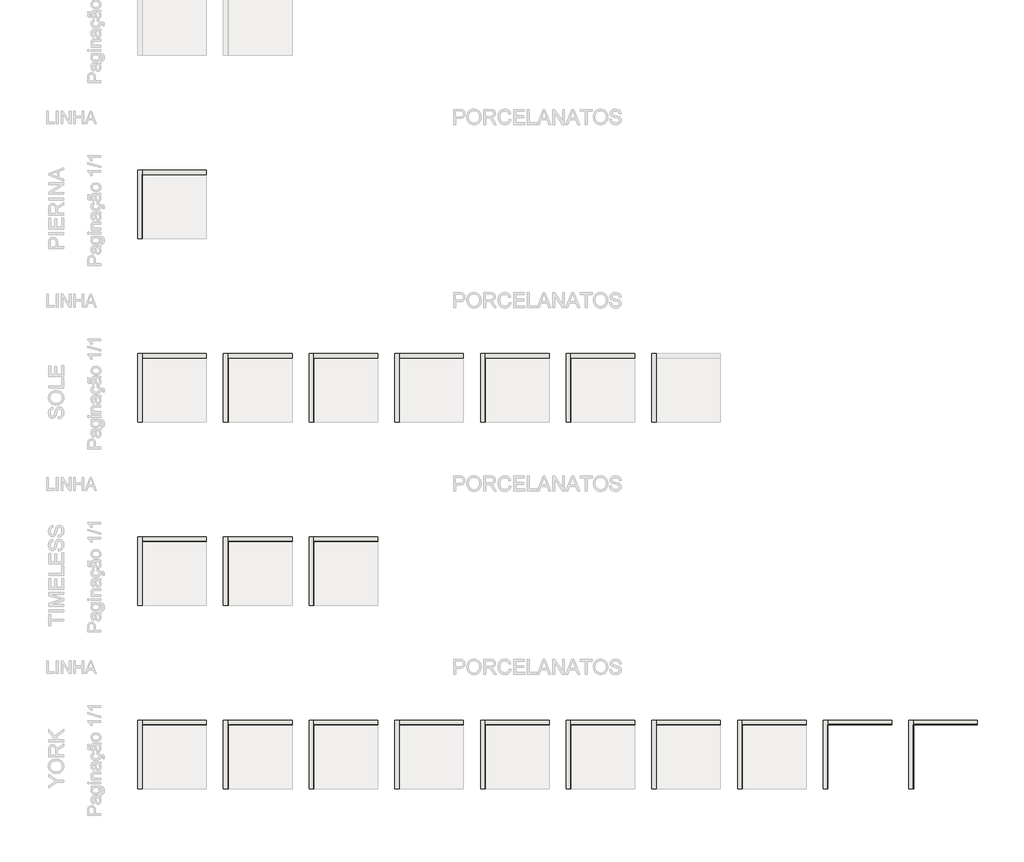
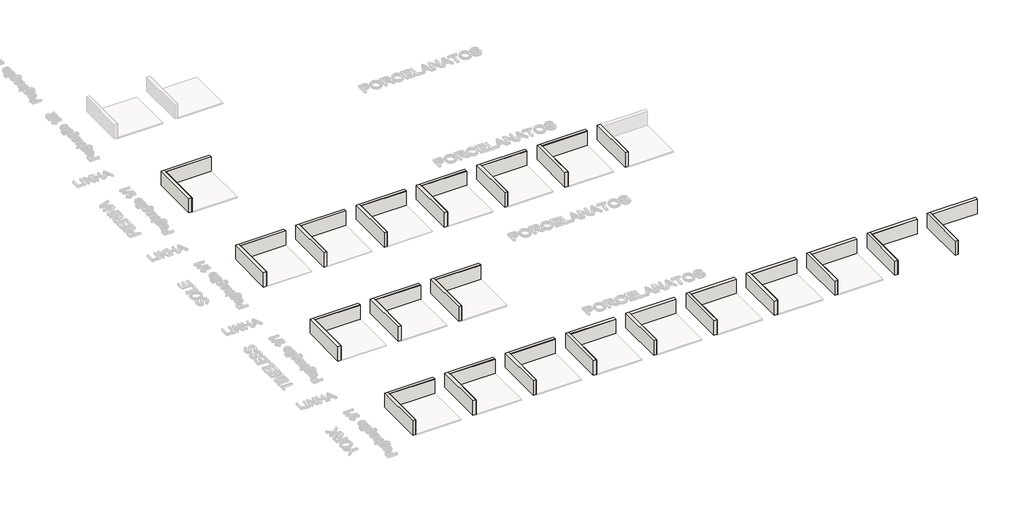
# One storey, part 1 of 22: 82 walls.
"""IFC4 building model written with IfcOpenShell, lengths in millimetres."""

from ifc_helpers import new_model, si_unit, origin, origin_with_axes, place, context, project, spatial, polyline, outline, extrude, faceted_brep, element, save

model = new_model("IFC4")

# Units and contexts
model_context = context("Model", 3, world=origin())
ifc_project = project(units=[si_unit("LENGTHUNIT", "METRE", prefix="MILLI")], contexts=[model_context])

# Site, building, storey
site = spatial("IfcSite", under=ifc_project)
building = spatial("IfcBuilding", under=site)
storey = spatial("IfcBuildingStorey", under=building, Name="Showroom (N.A.)", Elevation=0.0)

# Walls
placement = place(None, origin())
element("IfcWall", 1, ObjectType="Portinari_York_Decor_SGR_MATTE_29,1x117_Pag-1/1", at=placement, inside=storey, context=model_context, shape_type="Brep", body=[
    faceted_brep([(-75054.0516826, -223255.9980743, 0.0), (-78054.0516826, -223255.9980743, 0.0), (-78054.0516826, -223255.9980743, 1000.0), (-75054.0516826, -223255.9980743, 1000.0), (-75054.0516826, -223270.9980743, 0.0), (-75054.0516826, -223270.9980743, 1000.0), (-78039.0516826, -223270.9980743, 1000.0), (-78054.0516826, -223270.9980743, 1000.0), (-78054.0516826, -223270.9980743, 0.0), (-78039.0516826, -223270.9980743, 0.0)], [[[0, 1, 2, 3]], [[4, 5, 6, 7, 8, 9]], [[1, 0, 4, 9, 8]], [[3, 2, 7, 6, 5]], [[0, 3, 5, 4]], [[2, 1, 8, 7]]]),
])
element("IfcWall", 2, ObjectType="Portinari_York_Decor_SGR_MATTE_29,1x117_Pag-1/1", at=placement, inside=storey, context=model_context, shape_type="SweptSolid", body=[
    extrude(outline(polyline([(-78054.0516826, -226255.9980743), (-78054.0516826, -223270.9980743), (-78039.0516826, -223270.9980743), (-78039.0516826, -226255.9980743), (-78054.0516826, -226255.9980743)])), origin_with_axes(), (0.0, 0.0, 1.0), 1000.0),
])
element("IfcWall", 3, ObjectType="Portinari_York_Decor_WH_MATTE_29,1x117_Pag-1/1", at=placement, inside=storey, context=model_context, shape_type="Brep", body=[
    faceted_brep([(-71054.0516826, -223255.9980743, 0.0), (-74054.0516826, -223255.9980743, 0.0), (-74054.0516826, -223255.9980743, 1000.0), (-71054.0516826, -223255.9980743, 1000.0), (-71054.0516826, -223270.9980743, 0.0), (-71054.0516826, -223270.9980743, 1000.0), (-74039.0516826, -223270.9980743, 1000.0), (-74054.0516826, -223270.9980743, 1000.0), (-74054.0516826, -223270.9980743, 0.0), (-74039.0516826, -223270.9980743, 0.0)], [[[0, 1, 2, 3]], [[4, 5, 6, 7, 8, 9]], [[1, 0, 4, 9, 8]], [[3, 2, 7, 6, 5]], [[0, 3, 5, 4]], [[2, 1, 8, 7]]]),
])
element("IfcWall", 4, ObjectType="Portinari_York_Decor_WH_MATTE_29,1x117_Pag-1/1", at=placement, inside=storey, context=model_context, shape_type="SweptSolid", body=[
    extrude(outline(polyline([(-74054.0516826, -226255.9980743), (-74054.0516826, -223270.9980743), (-74039.0516826, -223270.9980743), (-74039.0516826, -226255.9980743), (-74054.0516826, -226255.9980743)])), origin_with_axes(), (0.0, 0.0, 1.0), 1000.0),
])
element("IfcWall", 5, ObjectType="Portinari_Pierina_BK_NAT_80x160_Pag-1/1", at=placement, inside=storey, context=model_context, shape_type="Brep", body=[
    faceted_brep([(-107054.0516826, -197565.8854377, 0.0), (-110054.0516826, -197565.8854377, 0.0), (-110054.0516826, -197565.8854377, 1000.0), (-107054.0516826, -197565.8854377, 1000.0), (-107054.0516826, -197580.8854377, 0.0), (-107054.0516826, -197580.8854377, 1000.0), (-110039.0516826, -197580.8854377, 1000.0), (-110054.0516826, -197580.8854377, 1000.0), (-110054.0516826, -197580.8854377, 0.0), (-110039.0516826, -197580.8854377, 0.0)], [[[0, 1, 2, 3]], [[4, 5, 6, 7, 8, 9]], [[1, 0, 4, 9, 8]], [[3, 2, 7, 6, 5]], [[0, 3, 5, 4]], [[2, 1, 8, 7]]]),
])
element("IfcWall", 6, ObjectType="Portinari_Pierina_BK_NAT_80x160_Pag-1/1", at=placement, inside=storey, context=model_context, shape_type="SweptSolid", body=[
    extrude(outline(polyline([(-110054.0516826, -200565.8854377), (-110054.0516826, -197580.8854377), (-110039.0516826, -197580.8854377), (-110039.0516826, -200565.8854377), (-110054.0516826, -200565.8854377)])), origin_with_axes(), (0.0, 0.0, 1.0), 1000.0),
])
element("IfcWall", 7, ObjectType="Portinari_Sole_BW_NAT_100x100_Pag-1/1", at=placement, inside=storey, context=model_context, shape_type="Brep", body=[
    faceted_brep([(-107054.0516826, -206129.2563166, 0.0), (-110054.0516826, -206129.2563166, 0.0), (-110054.0516826, -206129.2563166, 1000.0), (-107054.0516826, -206129.2563166, 1000.0), (-107054.0516826, -206144.2563166, 0.0), (-107054.0516826, -206144.2563166, 1000.0), (-110039.0516826, -206144.2563166, 1000.0), (-110054.0516826, -206144.2563166, 1000.0), (-110054.0516826, -206144.2563166, 0.0), (-110039.0516826, -206144.2563166, 0.0)], [[[0, 1, 2, 3]], [[4, 5, 6, 7, 8, 9]], [[1, 0, 4, 9, 8]], [[3, 2, 7, 6, 5]], [[0, 3, 5, 4]], [[2, 1, 8, 7]]]),
])
element("IfcWall", 8, ObjectType="Portinari_Sole_BW_NAT_100x100_Pag-1/1", at=placement, inside=storey, context=model_context, shape_type="SweptSolid", body=[
    extrude(outline(polyline([(-110054.0516826, -209129.2563166), (-110054.0516826, -206144.2563166), (-110039.0516826, -206144.2563166), (-110039.0516826, -209129.2563166), (-110054.0516826, -209129.2563166)])), origin_with_axes(), (0.0, 0.0, 1.0), 1000.0),
])
element("IfcWall", 9, ObjectType="Portinari_Sole_BW_HARD_100x100_Pag-1/1", at=placement, inside=storey, context=model_context, shape_type="Brep", body=[
    faceted_brep([(-103054.0516826, -206129.2563166, 0.0), (-106054.0516826, -206129.2563166, 0.0), (-106054.0516826, -206129.2563166, 1000.0), (-103054.0516826, -206129.2563166, 1000.0), (-103054.0516826, -206144.2563166, 0.0), (-103054.0516826, -206144.2563166, 1000.0), (-106039.0516826, -206144.2563166, 1000.0), (-106054.0516826, -206144.2563166, 1000.0), (-106054.0516826, -206144.2563166, 0.0), (-106039.0516826, -206144.2563166, 0.0)], [[[0, 1, 2, 3]], [[4, 5, 6, 7, 8, 9]], [[1, 0, 4, 9, 8]], [[3, 2, 7, 6, 5]], [[0, 3, 5, 4]], [[2, 1, 8, 7]]]),
])
element("IfcWall", 10, ObjectType="Portinari_Sole_BW_HARD_100x100_Pag-1/1", at=placement, inside=storey, context=model_context, shape_type="SweptSolid", body=[
    extrude(outline(polyline([(-106054.0516826, -209129.2563166), (-106054.0516826, -206144.2563166), (-106039.0516826, -206144.2563166), (-106039.0516826, -209129.2563166), (-106054.0516826, -209129.2563166)])), origin_with_axes(), (0.0, 0.0, 1.0), 1000.0),
])
element("IfcWall", 11, ObjectType="Portinari_Sole_Decor_GN_NAT_4,82x40_Pag-1/1", at=placement, inside=storey, context=model_context, shape_type="Brep", body=[
    faceted_brep([(-99054.0516826, -206129.2563166, 0.0), (-102054.0516826, -206129.2563166, 0.0), (-102054.0516826, -206129.2563166, 1000.0), (-99054.0516826, -206129.2563166, 1000.0), (-99054.0516826, -206141.6563166, 0.0), (-99054.0516826, -206141.6563166, 1000.0), (-102041.6516826, -206141.6563166, 1000.0), (-102054.0516826, -206141.6563166, 1000.0), (-102054.0516826, -206141.6563166, 0.0), (-102041.6516826, -206141.6563166, 0.0)], [[[0, 1, 2, 3]], [[4, 5, 6, 7, 8, 9]], [[1, 0, 4, 9, 8]], [[3, 2, 7, 6, 5]], [[0, 3, 5, 4]], [[2, 1, 8, 7]]]),
])
element("IfcWall", 12, ObjectType="Portinari_Sole_Decor_GN_NAT_4,82x40_Pag-1/1", at=placement, inside=storey, context=model_context, shape_type="SweptSolid", body=[
    extrude(outline(polyline([(-102054.0516826, -209129.2563166), (-102054.0516826, -206141.6563166), (-102041.6516826, -206141.6563166), (-102041.6516826, -209129.2563166), (-102054.0516826, -209129.2563166)])), origin_with_axes(), (0.0, 0.0, 1.0), 1000.0),
])
element("IfcWall", 13, ObjectType="Portinari_Sole_Decor_YL_NAT_4,82x40_Pag-1/1", at=placement, inside=storey, context=model_context, shape_type="Brep", body=[
    faceted_brep([(-95054.0516826, -206129.2563166, 0.0), (-98054.0516826, -206129.2563166, 0.0), (-98054.0516826, -206129.2563166, 1000.0), (-95054.0516826, -206129.2563166, 1000.0), (-95054.0516826, -206141.6563166, 0.0), (-95054.0516826, -206141.6563166, 1000.0), (-98041.6516826, -206141.6563166, 1000.0), (-98054.0516826, -206141.6563166, 1000.0), (-98054.0516826, -206141.6563166, 0.0), (-98041.6516826, -206141.6563166, 0.0)], [[[0, 1, 2, 3]], [[4, 5, 6, 7, 8, 9]], [[1, 0, 4, 9, 8]], [[3, 2, 7, 6, 5]], [[0, 3, 5, 4]], [[2, 1, 8, 7]]]),
])
element("IfcWall", 14, ObjectType="Portinari_Sole_Decor_YL_NAT_4,82x40_Pag-1/1", at=placement, inside=storey, context=model_context, shape_type="SweptSolid", body=[
    extrude(outline(polyline([(-98054.0516826, -209129.2563166), (-98054.0516826, -206141.6563166), (-98041.6516826, -206141.6563166), (-98041.6516826, -209129.2563166), (-98054.0516826, -209129.2563166)])), origin_with_axes(), (0.0, 0.0, 1.0), 1000.0),
])
element("IfcWall", 15, ObjectType="Portinari_Sole_Decor_SBE_NAT_4,82x40_Pag-1/1", at=placement, inside=storey, context=model_context, shape_type="Brep", body=[
    faceted_brep([(-91054.0516826, -206129.2563166, 0.0), (-94054.0516826, -206129.2563166, 0.0), (-94054.0516826, -206129.2563166, 1000.0), (-91054.0516826, -206129.2563166, 1000.0), (-91054.0516826, -206141.6563166, 0.0), (-91054.0516826, -206141.6563166, 1000.0), (-94041.6516826, -206141.6563166, 1000.0), (-94054.0516826, -206141.6563166, 1000.0), (-94054.0516826, -206141.6563166, 0.0), (-94041.6516826, -206141.6563166, 0.0)], [[[0, 1, 2, 3]], [[4, 5, 6, 7, 8, 9]], [[1, 0, 4, 9, 8]], [[3, 2, 7, 6, 5]], [[0, 3, 5, 4]], [[2, 1, 8, 7]]]),
])
element("IfcWall", 16, ObjectType="Portinari_Sole_Decor_SBE_NAT_4,82x40_Pag-1/1", at=placement, inside=storey, context=model_context, shape_type="SweptSolid", body=[
    extrude(outline(polyline([(-94054.0516826, -209129.2563166), (-94054.0516826, -206141.6563166), (-94041.6516826, -206141.6563166), (-94041.6516826, -209129.2563166), (-94054.0516826, -209129.2563166)])), origin_with_axes(), (0.0, 0.0, 1.0), 1000.0),
])
element("IfcWall", 17, ObjectType="Portinari_Sole_Decor_NO_NAT_4,82x40_Pag-1/1", at=placement, inside=storey, context=model_context, shape_type="Brep", body=[
    faceted_brep([(-87054.0516826, -206129.2563166, 0.0), (-90054.0516826, -206129.2563166, 0.0), (-90054.0516826, -206129.2563166, 1000.0), (-87054.0516826, -206129.2563166, 1000.0), (-87054.0516826, -206141.6563166, 0.0), (-87054.0516826, -206141.6563166, 1000.0), (-90041.6516826, -206141.6563166, 1000.0), (-90054.0516826, -206141.6563166, 1000.0), (-90054.0516826, -206141.6563166, 0.0), (-90041.6516826, -206141.6563166, 0.0)], [[[0, 1, 2, 3]], [[4, 5, 6, 7, 8, 9]], [[1, 0, 4, 9, 8]], [[3, 2, 7, 6, 5]], [[0, 3, 5, 4]], [[2, 1, 8, 7]]]),
])
element("IfcWall", 18, ObjectType="Portinari_Sole_Decor_NO_NAT_4,82x40_Pag-1/1", at=placement, inside=storey, context=model_context, shape_type="SweptSolid", body=[
    extrude(outline(polyline([(-90054.0516826, -209129.2563166), (-90054.0516826, -206141.6563166), (-90041.6516826, -206141.6563166), (-90041.6516826, -209129.2563166), (-90054.0516826, -209129.2563166)])), origin_with_axes(), (0.0, 0.0, 1.0), 1000.0),
])
element("IfcWall", 19, ObjectType="Portinari_Sole_Decor_BW_NAT_4,82x40_Pag-1/1", at=placement, inside=storey, context=model_context, shape_type="SweptSolid", body=[
    extrude(outline(polyline([(-86054.0516826, -209129.2563166), (-86054.0516826, -206141.6563166), (-86041.6516826, -206141.6563166), (-86041.6516826, -209129.2563166), (-86054.0516826, -209129.2563166)])), origin_with_axes(), (0.0, 0.0, 1.0), 1000.0),
])
element("IfcWall", 20, ObjectType="Portinari_Timeless_WH_NAT_120x120_Pag-1/1", at=placement, inside=storey, context=model_context, shape_type="Brep", body=[
    faceted_brep([(-107054.0516826, -214692.6271954, 0.0), (-110054.0516826, -214692.6271954, 0.0), (-110054.0516826, -214692.6271954, 1000.0), (-107054.0516826, -214692.6271954, 1000.0), (-107054.0516826, -214706.8271954, 0.0), (-107054.0516826, -214706.8271954, 1000.0), (-110039.8516826, -214706.8271954, 1000.0), (-110054.0516826, -214706.8271954, 1000.0), (-110054.0516826, -214706.8271954, 0.0), (-110039.8516826, -214706.8271954, 0.0)], [[[0, 1, 2, 3]], [[4, 5, 6, 7, 8, 9]], [[1, 0, 4, 9, 8]], [[3, 2, 7, 6, 5]], [[0, 3, 5, 4]], [[2, 1, 8, 7]]]),
])
element("IfcWall", 21, ObjectType="Portinari_Timeless_WH_NAT_120x120_Pag-1/1", at=placement, inside=storey, context=model_context, shape_type="SweptSolid", body=[
    extrude(outline(polyline([(-110054.0516826, -217692.6271954), (-110054.0516826, -214706.8271954), (-110039.8516826, -214706.8271954), (-110039.8516826, -217692.6271954), (-110054.0516826, -217692.6271954)])), origin_with_axes(), (0.0, 0.0, 1.0), 1000.0),
])
element("IfcWall", 22, ObjectType="Portinari_Timeless_WH_POL_120x120_Pag-1/1", at=placement, inside=storey, context=model_context, shape_type="Brep", body=[
    faceted_brep([(-103054.0516826, -214692.6271954, 0.0), (-106054.0516826, -214692.6271954, 0.0), (-106054.0516826, -214692.6271954, 1000.0), (-103054.0516826, -214692.6271954, 1000.0), (-103054.0516826, -214706.8271954, 0.0), (-103054.0516826, -214706.8271954, 1000.0), (-106039.8516826, -214706.8271954, 1000.0), (-106054.0516826, -214706.8271954, 1000.0), (-106054.0516826, -214706.8271954, 0.0), (-106039.8516826, -214706.8271954, 0.0)], [[[0, 1, 2, 3]], [[4, 5, 6, 7, 8, 9]], [[1, 0, 4, 9, 8]], [[3, 2, 7, 6, 5]], [[0, 3, 5, 4]], [[2, 1, 8, 7]]]),
])
element("IfcWall", 23, ObjectType="Portinari_Timeless_WH_POL_120x120_Pag-1/1", at=placement, inside=storey, context=model_context, shape_type="SweptSolid", body=[
    extrude(outline(polyline([(-106054.0516826, -217692.6271954), (-106054.0516826, -214706.8271954), (-106039.8516826, -214706.8271954), (-106039.8516826, -217692.6271954), (-106054.0516826, -217692.6271954)])), origin_with_axes(), (0.0, 0.0, 1.0), 1000.0),
])
element("IfcWall", 24, ObjectType="Portinari_Timeless_WH_POL_120x270_Pag-1/1", at=placement, inside=storey, context=model_context, shape_type="Brep", body=[
    faceted_brep([(-99054.0516826, -214692.6271954, 0.0), (-102054.0516826, -214692.6271954, 0.0), (-102054.0516826, -214692.6271954, 1000.0), (-99054.0516826, -214692.6271954, 1000.0), (-99054.0516826, -214706.6271954, 0.0), (-99054.0516826, -214706.6271954, 1000.0), (-102040.0516826, -214706.6271954, 1000.0), (-102054.0516826, -214706.6271954, 1000.0), (-102054.0516826, -214706.6271954, 0.0), (-102040.0516826, -214706.6271954, 0.0)], [[[0, 1, 2, 3]], [[4, 5, 6, 7, 8, 9]], [[1, 0, 4, 9, 8]], [[3, 2, 7, 6, 5]], [[0, 3, 5, 4]], [[2, 1, 8, 7]]]),
])
element("IfcWall", 25, ObjectType="Portinari_Timeless_WH_POL_120x270_Pag-1/1", at=placement, inside=storey, context=model_context, shape_type="SweptSolid", body=[
    extrude(outline(polyline([(-102054.0516826, -217692.6271954), (-102054.0516826, -214706.6271954), (-102040.0516826, -214706.6271954), (-102040.0516826, -217692.6271954), (-102054.0516826, -217692.6271954)])), origin_with_axes(), (0.0, 0.0, 1.0), 1000.0),
])
element("IfcWall", 26, ObjectType="Portinari_York_BE_NAT_120x120_Pag-1/1", at=placement, inside=storey, context=model_context, shape_type="Brep", body=[
    faceted_brep([(-107054.0516826, -223255.9980743, 0.0), (-110054.0516826, -223255.9980743, 0.0), (-110054.0516826, -223255.9980743, 1000.0), (-107054.0516826, -223255.9980743, 1000.0), (-107054.0516826, -223270.1980743, 0.0), (-107054.0516826, -223270.1980743, 1000.0), (-110039.8516826, -223270.1980743, 1000.0), (-110054.0516826, -223270.1980743, 1000.0), (-110054.0516826, -223270.1980743, 0.0), (-110039.8516826, -223270.1980743, 0.0)], [[[0, 1, 2, 3]], [[4, 5, 6, 7, 8, 9]], [[1, 0, 4, 9, 8]], [[3, 2, 7, 6, 5]], [[0, 3, 5, 4]], [[2, 1, 8, 7]]]),
])
element("IfcWall", 27, ObjectType="Portinari_York_BE_NAT_120x120_Pag-1/1", at=placement, inside=storey, context=model_context, shape_type="SweptSolid", body=[
    extrude(outline(polyline([(-110054.0516826, -226255.9980743), (-110054.0516826, -223270.1980743), (-110039.8516826, -223270.1980743), (-110039.8516826, -226255.9980743), (-110054.0516826, -226255.9980743)])), origin_with_axes(), (0.0, 0.0, 1.0), 1000.0),
])
element("IfcWall", 28, ObjectType="Portinari_York_BE_HARD_120x120_Pag-1/1", at=placement, inside=storey, context=model_context, shape_type="Brep", body=[
    faceted_brep([(-103054.0516826, -223255.9980743, 0.0), (-106054.0516826, -223255.9980743, 0.0), (-106054.0516826, -223255.9980743, 1000.0), (-103054.0516826, -223255.9980743, 1000.0), (-103054.0516826, -223270.1980743, 0.0), (-103054.0516826, -223270.1980743, 1000.0), (-106039.8516826, -223270.1980743, 1000.0), (-106054.0516826, -223270.1980743, 1000.0), (-106054.0516826, -223270.1980743, 0.0), (-106039.8516826, -223270.1980743, 0.0)], [[[0, 1, 2, 3]], [[4, 5, 6, 7, 8, 9]], [[1, 0, 4, 9, 8]], [[3, 2, 7, 6, 5]], [[0, 3, 5, 4]], [[2, 1, 8, 7]]]),
])
element("IfcWall", 29, ObjectType="Portinari_York_BE_HARD_120x120_Pag-1/1", at=placement, inside=storey, context=model_context, shape_type="SweptSolid", body=[
    extrude(outline(polyline([(-106054.0516826, -226255.9980743), (-106054.0516826, -223270.1980743), (-106039.8516826, -223270.1980743), (-106039.8516826, -226255.9980743), (-106054.0516826, -226255.9980743)])), origin_with_axes(), (0.0, 0.0, 1.0), 1000.0),
])
element("IfcWall", 30, ObjectType="Portinari_York_SGR_NAT_120x120_Pag-1/1", at=placement, inside=storey, context=model_context, shape_type="Brep", body=[
    faceted_brep([(-99054.0516826, -223255.9980743, 0.0), (-102054.0516826, -223255.9980743, 0.0), (-102054.0516826, -223255.9980743, 1000.0), (-99054.0516826, -223255.9980743, 1000.0), (-99054.0516826, -223270.1980743, 0.0), (-99054.0516826, -223270.1980743, 1000.0), (-102039.8516826, -223270.1980743, 1000.0), (-102054.0516826, -223270.1980743, 1000.0), (-102054.0516826, -223270.1980743, 0.0), (-102039.8516826, -223270.1980743, 0.0)], [[[0, 1, 2, 3]], [[4, 5, 6, 7, 8, 9]], [[1, 0, 4, 9, 8]], [[3, 2, 7, 6, 5]], [[0, 3, 5, 4]], [[2, 1, 8, 7]]]),
])
element("IfcWall", 31, ObjectType="Portinari_York_SGR_NAT_120x120_Pag-1/1", at=placement, inside=storey, context=model_context, shape_type="SweptSolid", body=[
    extrude(outline(polyline([(-102054.0516826, -226255.9980743), (-102054.0516826, -223270.1980743), (-102039.8516826, -223270.1980743), (-102039.8516826, -226255.9980743), (-102054.0516826, -226255.9980743)])), origin_with_axes(), (0.0, 0.0, 1.0), 1000.0),
])
element("IfcWall", 32, ObjectType="Portinari_York_SGR_HARD_120x120_Pag-1/1", at=placement, inside=storey, context=model_context, shape_type="Brep", body=[
    faceted_brep([(-95054.0516826, -223255.9980743, 0.0), (-98054.0516826, -223255.9980743, 0.0), (-98054.0516826, -223255.9980743, 1000.0), (-95054.0516826, -223255.9980743, 1000.0), (-95054.0516826, -223270.1980743, 0.0), (-95054.0516826, -223270.1980743, 1000.0), (-98039.8516826, -223270.1980743, 1000.0), (-98054.0516826, -223270.1980743, 1000.0), (-98054.0516826, -223270.1980743, 0.0), (-98039.8516826, -223270.1980743, 0.0)], [[[0, 1, 2, 3]], [[4, 5, 6, 7, 8, 9]], [[1, 0, 4, 9, 8]], [[3, 2, 7, 6, 5]], [[0, 3, 5, 4]], [[2, 1, 8, 7]]]),
])
element("IfcWall", 33, ObjectType="Portinari_York_SGR_HARD_120x120_Pag-1/1", at=placement, inside=storey, context=model_context, shape_type="SweptSolid", body=[
    extrude(outline(polyline([(-98054.0516826, -226255.9980743), (-98054.0516826, -223270.1980743), (-98039.8516826, -223270.1980743), (-98039.8516826, -226255.9980743), (-98054.0516826, -226255.9980743)])), origin_with_axes(), (0.0, 0.0, 1.0), 1000.0),
])
element("IfcWall", 34, ObjectType="Portinari_York_WH_NAT_120x120_Pag-1/1", at=placement, inside=storey, context=model_context, shape_type="Brep", body=[
    faceted_brep([(-91054.0516826, -223255.9980743, 0.0), (-94054.0516826, -223255.9980743, 0.0), (-94054.0516826, -223255.9980743, 1000.0), (-91054.0516826, -223255.9980743, 1000.0), (-91054.0516826, -223270.1980743, 0.0), (-91054.0516826, -223270.1980743, 1000.0), (-94039.8516826, -223270.1980743, 1000.0), (-94054.0516826, -223270.1980743, 1000.0), (-94054.0516826, -223270.1980743, 0.0), (-94039.8516826, -223270.1980743, 0.0)], [[[0, 1, 2, 3]], [[4, 5, 6, 7, 8, 9]], [[1, 0, 4, 9, 8]], [[3, 2, 7, 6, 5]], [[0, 3, 5, 4]], [[2, 1, 8, 7]]]),
])
element("IfcWall", 35, ObjectType="Portinari_York_WH_NAT_120x120_Pag-1/1", at=placement, inside=storey, context=model_context, shape_type="SweptSolid", body=[
    extrude(outline(polyline([(-94054.0516826, -226255.9980743), (-94054.0516826, -223270.1980743), (-94039.8516826, -223270.1980743), (-94039.8516826, -226255.9980743), (-94054.0516826, -226255.9980743)])), origin_with_axes(), (0.0, 0.0, 1.0), 1000.0),
])
element("IfcWall", 36, ObjectType="Portinari_York_BE_POL_120x120_Pag-1/1", at=placement, inside=storey, context=model_context, shape_type="Brep", body=[
    faceted_brep([(-87054.0516826, -223255.9980743, 0.0), (-90054.0516826, -223255.9980743, 0.0), (-90054.0516826, -223255.9980743, 1000.0), (-87054.0516826, -223255.9980743, 1000.0), (-87054.0516826, -223270.1980743, 0.0), (-87054.0516826, -223270.1980743, 1000.0), (-90039.8516826, -223270.1980743, 1000.0), (-90054.0516826, -223270.1980743, 1000.0), (-90054.0516826, -223270.1980743, 0.0), (-90039.8516826, -223270.1980743, 0.0)], [[[0, 1, 2, 3]], [[4, 5, 6, 7, 8, 9]], [[1, 0, 4, 9, 8]], [[3, 2, 7, 6, 5]], [[0, 3, 5, 4]], [[2, 1, 8, 7]]]),
])
element("IfcWall", 37, ObjectType="Portinari_York_BE_POL_120x120_Pag-1/1", at=placement, inside=storey, context=model_context, shape_type="SweptSolid", body=[
    extrude(outline(polyline([(-90054.0516826, -226255.9980743), (-90054.0516826, -223270.1980743), (-90039.8516826, -223270.1980743), (-90039.8516826, -226255.9980743), (-90054.0516826, -226255.9980743)])), origin_with_axes(), (0.0, 0.0, 1.0), 1000.0),
])
element("IfcWall", 38, ObjectType="Portinari_York_SGR_POL_120x120_Pag-1/1", at=placement, inside=storey, context=model_context, shape_type="Brep", body=[
    faceted_brep([(-83054.0516826, -223255.9980743, 0.0), (-86054.0516826, -223255.9980743, 0.0), (-86054.0516826, -223255.9980743, 1000.0), (-83054.0516826, -223255.9980743, 1000.0), (-83054.0516826, -223270.1980743, 0.0), (-83054.0516826, -223270.1980743, 1000.0), (-86039.8516826, -223270.1980743, 1000.0), (-86054.0516826, -223270.1980743, 1000.0), (-86054.0516826, -223270.1980743, 0.0), (-86039.8516826, -223270.1980743, 0.0)], [[[0, 1, 2, 3]], [[4, 5, 6, 7, 8, 9]], [[1, 0, 4, 9, 8]], [[3, 2, 7, 6, 5]], [[0, 3, 5, 4]], [[2, 1, 8, 7]]]),
])
element("IfcWall", 39, ObjectType="Portinari_York_SGR_POL_120x120_Pag-1/1", at=placement, inside=storey, context=model_context, shape_type="SweptSolid", body=[
    extrude(outline(polyline([(-86054.0516826, -226255.9980743), (-86054.0516826, -223270.1980743), (-86039.8516826, -223270.1980743), (-86039.8516826, -226255.9980743), (-86054.0516826, -226255.9980743)])), origin_with_axes(), (0.0, 0.0, 1.0), 1000.0),
])
element("IfcWall", 40, ObjectType="Portinari_York_WH_POL_120x120_Pag-1/1", at=placement, inside=storey, context=model_context, shape_type="Brep", body=[
    faceted_brep([(-79054.0516826, -223255.9980743, 0.0), (-82054.0516826, -223255.9980743, 0.0), (-82054.0516826, -223255.9980743, 1000.0), (-79054.0516826, -223255.9980743, 1000.0), (-79054.0516826, -223270.1980743, 0.0), (-79054.0516826, -223270.1980743, 1000.0), (-82039.8516826, -223270.1980743, 1000.0), (-82054.0516826, -223270.1980743, 1000.0), (-82054.0516826, -223270.1980743, 0.0), (-82039.8516826, -223270.1980743, 0.0)], [[[0, 1, 2, 3]], [[4, 5, 6, 7, 8, 9]], [[1, 0, 4, 9, 8]], [[3, 2, 7, 6, 5]], [[0, 3, 5, 4]], [[2, 1, 8, 7]]]),
])
element("IfcWall", 41, ObjectType="Portinari_York_WH_POL_120x120_Pag-1/1", at=placement, inside=storey, context=model_context, shape_type="SweptSolid", body=[
    extrude(outline(polyline([(-82054.0516826, -226255.9980743), (-82054.0516826, -223270.1980743), (-82039.8516826, -223270.1980743), (-82039.8516826, -226255.9980743), (-82054.0516826, -226255.9980743)])), origin_with_axes(), (0.0, 0.0, 1.0), 1000.0),
])
element("IfcWall", 42, ObjectType="Wall 1", at=placement, inside=storey, context=model_context, shape_type="Brep", body=[
    faceted_brep([(-110054.0516826, -200565.8854377, 0.0), (-110054.0516826, -197565.8854377, 0.0), (-110054.0516826, -197365.8854377, 0.0), (-110054.0516826, -197365.8854377, 1000.0), (-110054.0516826, -197565.8854377, 1000.0), (-110054.0516826, -200565.8854377, 1000.0), (-110254.0516826, -200565.8854377, 0.0), (-110254.0516826, -200565.8854377, 1000.0), (-110254.0516826, -197365.8854377, 1000.0), (-110254.0516826, -197365.8854377, 0.0)], [[[0, 1, 2, 3, 4, 5]], [[6, 7, 8, 9]], [[2, 1, 0, 6, 9]], [[5, 4, 3, 8, 7]], [[0, 5, 7, 6]], [[3, 2, 9, 8]]]),
])
element("IfcWall", 43, ObjectType="Wall 1", at=placement, inside=storey, context=model_context, shape_type="SweptSolid", body=[
    extrude(outline(polyline([(-107054.0516826, -197565.8854377), (-110054.0516826, -197565.8854377), (-110054.0516826, -197365.8854377), (-107054.0516826, -197365.8854377), (-107054.0516826, -197565.8854377)])), origin_with_axes(), (0.0, 0.0, 1.0), 1000.0),
])
element("IfcWall", 44, ObjectType="Wall 1", at=placement, inside=storey, context=model_context, shape_type="Brep", body=[
    faceted_brep([(-110054.0516826, -209129.2563166, 0.0), (-110054.0516826, -206129.2563166, 0.0), (-110054.0516826, -205929.2563166, 0.0), (-110054.0516826, -205929.2563166, 1000.0), (-110054.0516826, -206129.2563166, 1000.0), (-110054.0516826, -209129.2563166, 1000.0), (-110254.0516826, -209129.2563166, 0.0), (-110254.0516826, -209129.2563166, 1000.0), (-110254.0516826, -205929.2563166, 1000.0), (-110254.0516826, -205929.2563166, 0.0)], [[[0, 1, 2, 3, 4, 5]], [[6, 7, 8, 9]], [[2, 1, 0, 6, 9]], [[5, 4, 3, 8, 7]], [[0, 5, 7, 6]], [[3, 2, 9, 8]]]),
])
element("IfcWall", 45, ObjectType="Wall 1", at=placement, inside=storey, context=model_context, shape_type="SweptSolid", body=[
    extrude(outline(polyline([(-107054.0516826, -206129.2563166), (-110054.0516826, -206129.2563166), (-110054.0516826, -205929.2563166), (-107054.0516826, -205929.2563166), (-107054.0516826, -206129.2563166)])), origin_with_axes(), (0.0, 0.0, 1.0), 1000.0),
])
element("IfcWall", 46, ObjectType="Wall 1", at=placement, inside=storey, context=model_context, shape_type="Brep", body=[
    faceted_brep([(-106054.0516826, -209129.2563166, 0.0), (-106054.0516826, -206129.2563166, 0.0), (-106054.0516826, -205929.2563166, 0.0), (-106054.0516826, -205929.2563166, 1000.0), (-106054.0516826, -206129.2563166, 1000.0), (-106054.0516826, -209129.2563166, 1000.0), (-106254.0516826, -209129.2563166, 0.0), (-106254.0516826, -209129.2563166, 1000.0), (-106254.0516826, -205929.2563166, 1000.0), (-106254.0516826, -205929.2563166, 0.0)], [[[0, 1, 2, 3, 4, 5]], [[6, 7, 8, 9]], [[2, 1, 0, 6, 9]], [[5, 4, 3, 8, 7]], [[0, 5, 7, 6]], [[3, 2, 9, 8]]]),
])
element("IfcWall", 47, ObjectType="Wall 1", at=placement, inside=storey, context=model_context, shape_type="SweptSolid", body=[
    extrude(outline(polyline([(-103054.0516826, -206129.2563166), (-106054.0516826, -206129.2563166), (-106054.0516826, -205929.2563166), (-103054.0516826, -205929.2563166), (-103054.0516826, -206129.2563166)])), origin_with_axes(), (0.0, 0.0, 1.0), 1000.0),
])
element("IfcWall", 48, ObjectType="Wall 1", at=placement, inside=storey, context=model_context, shape_type="Brep", body=[
    faceted_brep([(-102054.0516826, -209129.2563166, 0.0), (-102054.0516826, -206129.2563166, 0.0), (-102054.0516826, -205929.2563166, 0.0), (-102054.0516826, -205929.2563166, 1000.0), (-102054.0516826, -206129.2563166, 1000.0), (-102054.0516826, -209129.2563166, 1000.0), (-102254.0516826, -209129.2563166, 0.0), (-102254.0516826, -209129.2563166, 1000.0), (-102254.0516826, -205929.2563166, 1000.0), (-102254.0516826, -205929.2563166, 0.0)], [[[0, 1, 2, 3, 4, 5]], [[6, 7, 8, 9]], [[2, 1, 0, 6, 9]], [[5, 4, 3, 8, 7]], [[0, 5, 7, 6]], [[3, 2, 9, 8]]]),
])
element("IfcWall", 49, ObjectType="Wall 1", at=placement, inside=storey, context=model_context, shape_type="SweptSolid", body=[
    extrude(outline(polyline([(-99054.0516826, -206129.2563166), (-102054.0516826, -206129.2563166), (-102054.0516826, -205929.2563166), (-99054.0516826, -205929.2563166), (-99054.0516826, -206129.2563166)])), origin_with_axes(), (0.0, 0.0, 1.0), 1000.0),
])
element("IfcWall", 50, ObjectType="Wall 1", at=placement, inside=storey, context=model_context, shape_type="Brep", body=[
    faceted_brep([(-98054.0516826, -209129.2563166, 0.0), (-98054.0516826, -206129.2563166, 0.0), (-98054.0516826, -205929.2563166, 0.0), (-98054.0516826, -205929.2563166, 1000.0), (-98054.0516826, -206129.2563166, 1000.0), (-98054.0516826, -209129.2563166, 1000.0), (-98254.0516826, -209129.2563166, 0.0), (-98254.0516826, -209129.2563166, 1000.0), (-98254.0516826, -205929.2563166, 1000.0), (-98254.0516826, -205929.2563166, 0.0)], [[[0, 1, 2, 3, 4, 5]], [[6, 7, 8, 9]], [[2, 1, 0, 6, 9]], [[5, 4, 3, 8, 7]], [[0, 5, 7, 6]], [[3, 2, 9, 8]]]),
])
element("IfcWall", 51, ObjectType="Wall 1", at=placement, inside=storey, context=model_context, shape_type="SweptSolid", body=[
    extrude(outline(polyline([(-95054.0516826, -206129.2563166), (-98054.0516826, -206129.2563166), (-98054.0516826, -205929.2563166), (-95054.0516826, -205929.2563166), (-95054.0516826, -206129.2563166)])), origin_with_axes(), (0.0, 0.0, 1.0), 1000.0),
])
element("IfcWall", 52, ObjectType="Wall 1", at=placement, inside=storey, context=model_context, shape_type="Brep", body=[
    faceted_brep([(-94054.0516826, -209129.2563166, 0.0), (-94054.0516826, -206129.2563166, 0.0), (-94054.0516826, -205929.2563166, 0.0), (-94054.0516826, -205929.2563166, 1000.0), (-94054.0516826, -206129.2563166, 1000.0), (-94054.0516826, -209129.2563166, 1000.0), (-94254.0516826, -209129.2563166, 0.0), (-94254.0516826, -209129.2563166, 1000.0), (-94254.0516826, -205929.2563166, 1000.0), (-94254.0516826, -205929.2563166, 0.0)], [[[0, 1, 2, 3, 4, 5]], [[6, 7, 8, 9]], [[2, 1, 0, 6, 9]], [[5, 4, 3, 8, 7]], [[0, 5, 7, 6]], [[3, 2, 9, 8]]]),
])
element("IfcWall", 53, ObjectType="Wall 1", at=placement, inside=storey, context=model_context, shape_type="SweptSolid", body=[
    extrude(outline(polyline([(-91054.0516826, -206129.2563166), (-94054.0516826, -206129.2563166), (-94054.0516826, -205929.2563166), (-91054.0516826, -205929.2563166), (-91054.0516826, -206129.2563166)])), origin_with_axes(), (0.0, 0.0, 1.0), 1000.0),
])
element("IfcWall", 54, ObjectType="Wall 1", at=placement, inside=storey, context=model_context, shape_type="Brep", body=[
    faceted_brep([(-90054.0516826, -209129.2563166, 0.0), (-90054.0516826, -206129.2563166, 0.0), (-90054.0516826, -205929.2563166, 0.0), (-90054.0516826, -205929.2563166, 1000.0), (-90054.0516826, -206129.2563166, 1000.0), (-90054.0516826, -209129.2563166, 1000.0), (-90254.0516826, -209129.2563166, 0.0), (-90254.0516826, -209129.2563166, 1000.0), (-90254.0516826, -205929.2563166, 1000.0), (-90254.0516826, -205929.2563166, 0.0)], [[[0, 1, 2, 3, 4, 5]], [[6, 7, 8, 9]], [[2, 1, 0, 6, 9]], [[5, 4, 3, 8, 7]], [[0, 5, 7, 6]], [[3, 2, 9, 8]]]),
])
element("IfcWall", 55, ObjectType="Wall 1", at=placement, inside=storey, context=model_context, shape_type="SweptSolid", body=[
    extrude(outline(polyline([(-87054.0516826, -206129.2563166), (-90054.0516826, -206129.2563166), (-90054.0516826, -205929.2563166), (-87054.0516826, -205929.2563166), (-87054.0516826, -206129.2563166)])), origin_with_axes(), (0.0, 0.0, 1.0), 1000.0),
])
element("IfcWall", 56, ObjectType="Wall 1", at=placement, inside=storey, context=model_context, shape_type="Brep", body=[
    faceted_brep([(-86054.0516826, -209129.2563166, 0.0), (-86054.0516826, -206129.2563166, 0.0), (-86054.0516826, -205929.2563166, 0.0), (-86054.0516826, -205929.2563166, 1000.0), (-86054.0516826, -206129.2563166, 1000.0), (-86054.0516826, -209129.2563166, 1000.0), (-86254.0516826, -209129.2563166, 0.0), (-86254.0516826, -209129.2563166, 1000.0), (-86254.0516826, -205929.2563166, 1000.0), (-86254.0516826, -205929.2563166, 0.0)], [[[0, 1, 2, 3, 4, 5]], [[6, 7, 8, 9]], [[2, 1, 0, 6, 9]], [[5, 4, 3, 8, 7]], [[0, 5, 7, 6]], [[3, 2, 9, 8]]]),
])
element("IfcWall", 57, ObjectType="Wall 1", at=placement, inside=storey, context=model_context, shape_type="Brep", body=[
    faceted_brep([(-110054.0516826, -217692.6271954, 0.0), (-110054.0516826, -214692.6271954, 0.0), (-110054.0516826, -214492.6271954, 0.0), (-110054.0516826, -214492.6271954, 1000.0), (-110054.0516826, -214692.6271954, 1000.0), (-110054.0516826, -217692.6271954, 1000.0), (-110254.0516826, -217692.6271954, 0.0), (-110254.0516826, -217692.6271954, 1000.0), (-110254.0516826, -214492.6271954, 1000.0), (-110254.0516826, -214492.6271954, 0.0)], [[[0, 1, 2, 3, 4, 5]], [[6, 7, 8, 9]], [[2, 1, 0, 6, 9]], [[5, 4, 3, 8, 7]], [[0, 5, 7, 6]], [[3, 2, 9, 8]]]),
])
element("IfcWall", 58, ObjectType="Wall 1", at=placement, inside=storey, context=model_context, shape_type="SweptSolid", body=[
    extrude(outline(polyline([(-107054.0516826, -214692.6271954), (-110054.0516826, -214692.6271954), (-110054.0516826, -214492.6271954), (-107054.0516826, -214492.6271954), (-107054.0516826, -214692.6271954)])), origin_with_axes(), (0.0, 0.0, 1.0), 1000.0),
])
element("IfcWall", 59, ObjectType="Wall 1", at=placement, inside=storey, context=model_context, shape_type="Brep", body=[
    faceted_brep([(-106054.0516826, -217692.6271954, 0.0), (-106054.0516826, -214692.6271954, 0.0), (-106054.0516826, -214492.6271954, 0.0), (-106054.0516826, -214492.6271954, 1000.0), (-106054.0516826, -214692.6271954, 1000.0), (-106054.0516826, -217692.6271954, 1000.0), (-106254.0516826, -217692.6271954, 0.0), (-106254.0516826, -217692.6271954, 1000.0), (-106254.0516826, -214492.6271954, 1000.0), (-106254.0516826, -214492.6271954, 0.0)], [[[0, 1, 2, 3, 4, 5]], [[6, 7, 8, 9]], [[2, 1, 0, 6, 9]], [[5, 4, 3, 8, 7]], [[0, 5, 7, 6]], [[3, 2, 9, 8]]]),
])
element("IfcWall", 60, ObjectType="Wall 1", at=placement, inside=storey, context=model_context, shape_type="SweptSolid", body=[
    extrude(outline(polyline([(-103054.0516826, -214692.6271954), (-106054.0516826, -214692.6271954), (-106054.0516826, -214492.6271954), (-103054.0516826, -214492.6271954), (-103054.0516826, -214692.6271954)])), origin_with_axes(), (0.0, 0.0, 1.0), 1000.0),
])
element("IfcWall", 61, ObjectType="Wall 1", at=placement, inside=storey, context=model_context, shape_type="Brep", body=[
    faceted_brep([(-102054.0516826, -217692.6271954, 0.0), (-102054.0516826, -214692.6271954, 0.0), (-102054.0516826, -214492.6271954, 0.0), (-102054.0516826, -214492.6271954, 1000.0), (-102054.0516826, -214692.6271954, 1000.0), (-102054.0516826, -217692.6271954, 1000.0), (-102254.0516826, -217692.6271954, 0.0), (-102254.0516826, -217692.6271954, 1000.0), (-102254.0516826, -214492.6271954, 1000.0), (-102254.0516826, -214492.6271954, 0.0)], [[[0, 1, 2, 3, 4, 5]], [[6, 7, 8, 9]], [[2, 1, 0, 6, 9]], [[5, 4, 3, 8, 7]], [[0, 5, 7, 6]], [[3, 2, 9, 8]]]),
])
element("IfcWall", 62, ObjectType="Wall 1", at=placement, inside=storey, context=model_context, shape_type="SweptSolid", body=[
    extrude(outline(polyline([(-99054.0516826, -214692.6271954), (-102054.0516826, -214692.6271954), (-102054.0516826, -214492.6271954), (-99054.0516826, -214492.6271954), (-99054.0516826, -214692.6271954)])), origin_with_axes(), (0.0, 0.0, 1.0), 1000.0),
])
element("IfcWall", 63, ObjectType="Wall 1", at=placement, inside=storey, context=model_context, shape_type="Brep", body=[
    faceted_brep([(-110054.0516826, -226255.9980743, 0.0), (-110054.0516826, -223255.9980743, 0.0), (-110054.0516826, -223055.9980743, 0.0), (-110054.0516826, -223055.9980743, 1000.0), (-110054.0516826, -223255.9980743, 1000.0), (-110054.0516826, -226255.9980743, 1000.0), (-110254.0516826, -226255.9980743, 0.0), (-110254.0516826, -226255.9980743, 1000.0), (-110254.0516826, -223055.9980743, 1000.0), (-110254.0516826, -223055.9980743, 0.0)], [[[0, 1, 2, 3, 4, 5]], [[6, 7, 8, 9]], [[2, 1, 0, 6, 9]], [[5, 4, 3, 8, 7]], [[0, 5, 7, 6]], [[3, 2, 9, 8]]]),
])
element("IfcWall", 64, ObjectType="Wall 1", at=placement, inside=storey, context=model_context, shape_type="SweptSolid", body=[
    extrude(outline(polyline([(-107054.0516826, -223255.9980743), (-110054.0516826, -223255.9980743), (-110054.0516826, -223055.9980743), (-107054.0516826, -223055.9980743), (-107054.0516826, -223255.9980743)])), origin_with_axes(), (0.0, 0.0, 1.0), 1000.0),
])
element("IfcWall", 65, ObjectType="Wall 1", at=placement, inside=storey, context=model_context, shape_type="Brep", body=[
    faceted_brep([(-106054.0516826, -226255.9980743, 0.0), (-106054.0516826, -223255.9980743, 0.0), (-106054.0516826, -223055.9980743, 0.0), (-106054.0516826, -223055.9980743, 1000.0), (-106054.0516826, -223255.9980743, 1000.0), (-106054.0516826, -226255.9980743, 1000.0), (-106254.0516826, -226255.9980743, 0.0), (-106254.0516826, -226255.9980743, 1000.0), (-106254.0516826, -223055.9980743, 1000.0), (-106254.0516826, -223055.9980743, 0.0)], [[[0, 1, 2, 3, 4, 5]], [[6, 7, 8, 9]], [[2, 1, 0, 6, 9]], [[5, 4, 3, 8, 7]], [[0, 5, 7, 6]], [[3, 2, 9, 8]]]),
])
element("IfcWall", 66, ObjectType="Wall 1", at=placement, inside=storey, context=model_context, shape_type="SweptSolid", body=[
    extrude(outline(polyline([(-103054.0516826, -223255.9980743), (-106054.0516826, -223255.9980743), (-106054.0516826, -223055.9980743), (-103054.0516826, -223055.9980743), (-103054.0516826, -223255.9980743)])), origin_with_axes(), (0.0, 0.0, 1.0), 1000.0),
])
element("IfcWall", 67, ObjectType="Wall 1", at=placement, inside=storey, context=model_context, shape_type="Brep", body=[
    faceted_brep([(-102054.0516826, -226255.9980743, 0.0), (-102054.0516826, -223255.9980743, 0.0), (-102054.0516826, -223055.9980743, 0.0), (-102054.0516826, -223055.9980743, 1000.0), (-102054.0516826, -223255.9980743, 1000.0), (-102054.0516826, -226255.9980743, 1000.0), (-102254.0516826, -226255.9980743, 0.0), (-102254.0516826, -226255.9980743, 1000.0), (-102254.0516826, -223055.9980743, 1000.0), (-102254.0516826, -223055.9980743, 0.0)], [[[0, 1, 2, 3, 4, 5]], [[6, 7, 8, 9]], [[2, 1, 0, 6, 9]], [[5, 4, 3, 8, 7]], [[0, 5, 7, 6]], [[3, 2, 9, 8]]]),
])
element("IfcWall", 68, ObjectType="Wall 1", at=placement, inside=storey, context=model_context, shape_type="SweptSolid", body=[
    extrude(outline(polyline([(-99054.0516826, -223255.9980743), (-102054.0516826, -223255.9980743), (-102054.0516826, -223055.9980743), (-99054.0516826, -223055.9980743), (-99054.0516826, -223255.9980743)])), origin_with_axes(), (0.0, 0.0, 1.0), 1000.0),
])
element("IfcWall", 69, ObjectType="Wall 1", at=placement, inside=storey, context=model_context, shape_type="Brep", body=[
    faceted_brep([(-98054.0516826, -226255.9980743, 0.0), (-98054.0516826, -223255.9980743, 0.0), (-98054.0516826, -223055.9980743, 0.0), (-98054.0516826, -223055.9980743, 1000.0), (-98054.0516826, -223255.9980743, 1000.0), (-98054.0516826, -226255.9980743, 1000.0), (-98254.0516826, -226255.9980743, 0.0), (-98254.0516826, -226255.9980743, 1000.0), (-98254.0516826, -223055.9980743, 1000.0), (-98254.0516826, -223055.9980743, 0.0)], [[[0, 1, 2, 3, 4, 5]], [[6, 7, 8, 9]], [[2, 1, 0, 6, 9]], [[5, 4, 3, 8, 7]], [[0, 5, 7, 6]], [[3, 2, 9, 8]]]),
])
element("IfcWall", 70, ObjectType="Wall 1", at=placement, inside=storey, context=model_context, shape_type="SweptSolid", body=[
    extrude(outline(polyline([(-95054.0516826, -223255.9980743), (-98054.0516826, -223255.9980743), (-98054.0516826, -223055.9980743), (-95054.0516826, -223055.9980743), (-95054.0516826, -223255.9980743)])), origin_with_axes(), (0.0, 0.0, 1.0), 1000.0),
])
element("IfcWall", 71, ObjectType="Wall 1", at=placement, inside=storey, context=model_context, shape_type="Brep", body=[
    faceted_brep([(-94054.0516826, -226255.9980743, 0.0), (-94054.0516826, -223255.9980743, 0.0), (-94054.0516826, -223055.9980743, 0.0), (-94054.0516826, -223055.9980743, 1000.0), (-94054.0516826, -223255.9980743, 1000.0), (-94054.0516826, -226255.9980743, 1000.0), (-94254.0516826, -226255.9980743, 0.0), (-94254.0516826, -226255.9980743, 1000.0), (-94254.0516826, -223055.9980743, 1000.0), (-94254.0516826, -223055.9980743, 0.0)], [[[0, 1, 2, 3, 4, 5]], [[6, 7, 8, 9]], [[2, 1, 0, 6, 9]], [[5, 4, 3, 8, 7]], [[0, 5, 7, 6]], [[3, 2, 9, 8]]]),
])
element("IfcWall", 72, ObjectType="Wall 1", at=placement, inside=storey, context=model_context, shape_type="SweptSolid", body=[
    extrude(outline(polyline([(-91054.0516826, -223255.9980743), (-94054.0516826, -223255.9980743), (-94054.0516826, -223055.9980743), (-91054.0516826, -223055.9980743), (-91054.0516826, -223255.9980743)])), origin_with_axes(), (0.0, 0.0, 1.0), 1000.0),
])
element("IfcWall", 73, ObjectType="Wall 1", at=placement, inside=storey, context=model_context, shape_type="Brep", body=[
    faceted_brep([(-90054.0516826, -226255.9980743, 0.0), (-90054.0516826, -223255.9980743, 0.0), (-90054.0516826, -223055.9980743, 0.0), (-90054.0516826, -223055.9980743, 1000.0), (-90054.0516826, -223255.9980743, 1000.0), (-90054.0516826, -226255.9980743, 1000.0), (-90254.0516826, -226255.9980743, 0.0), (-90254.0516826, -226255.9980743, 1000.0), (-90254.0516826, -223055.9980743, 1000.0), (-90254.0516826, -223055.9980743, 0.0)], [[[0, 1, 2, 3, 4, 5]], [[6, 7, 8, 9]], [[2, 1, 0, 6, 9]], [[5, 4, 3, 8, 7]], [[0, 5, 7, 6]], [[3, 2, 9, 8]]]),
])
element("IfcWall", 74, ObjectType="Wall 1", at=placement, inside=storey, context=model_context, shape_type="SweptSolid", body=[
    extrude(outline(polyline([(-87054.0516826, -223255.9980743), (-90054.0516826, -223255.9980743), (-90054.0516826, -223055.9980743), (-87054.0516826, -223055.9980743), (-87054.0516826, -223255.9980743)])), origin_with_axes(), (0.0, 0.0, 1.0), 1000.0),
])
element("IfcWall", 75, ObjectType="Wall 1", at=placement, inside=storey, context=model_context, shape_type="Brep", body=[
    faceted_brep([(-86054.0516826, -226255.9980743, 0.0), (-86054.0516826, -223255.9980743, 0.0), (-86054.0516826, -223055.9980743, 0.0), (-86054.0516826, -223055.9980743, 1000.0), (-86054.0516826, -223255.9980743, 1000.0), (-86054.0516826, -226255.9980743, 1000.0), (-86254.0516826, -226255.9980743, 0.0), (-86254.0516826, -226255.9980743, 1000.0), (-86254.0516826, -223055.9980743, 1000.0), (-86254.0516826, -223055.9980743, 0.0)], [[[0, 1, 2, 3, 4, 5]], [[6, 7, 8, 9]], [[2, 1, 0, 6, 9]], [[5, 4, 3, 8, 7]], [[0, 5, 7, 6]], [[3, 2, 9, 8]]]),
])
element("IfcWall", 76, ObjectType="Wall 1", at=placement, inside=storey, context=model_context, shape_type="SweptSolid", body=[
    extrude(outline(polyline([(-83054.0516826, -223255.9980743), (-86054.0516826, -223255.9980743), (-86054.0516826, -223055.9980743), (-83054.0516826, -223055.9980743), (-83054.0516826, -223255.9980743)])), origin_with_axes(), (0.0, 0.0, 1.0), 1000.0),
])
element("IfcWall", 77, ObjectType="Wall 1", at=placement, inside=storey, context=model_context, shape_type="Brep", body=[
    faceted_brep([(-82054.0516826, -226255.9980743, 0.0), (-82054.0516826, -223255.9980743, 0.0), (-82054.0516826, -223055.9980743, 0.0), (-82054.0516826, -223055.9980743, 1000.0), (-82054.0516826, -223255.9980743, 1000.0), (-82054.0516826, -226255.9980743, 1000.0), (-82254.0516826, -226255.9980743, 0.0), (-82254.0516826, -226255.9980743, 1000.0), (-82254.0516826, -223055.9980743, 1000.0), (-82254.0516826, -223055.9980743, 0.0)], [[[0, 1, 2, 3, 4, 5]], [[6, 7, 8, 9]], [[2, 1, 0, 6, 9]], [[5, 4, 3, 8, 7]], [[0, 5, 7, 6]], [[3, 2, 9, 8]]]),
])
element("IfcWall", 78, ObjectType="Wall 1", at=placement, inside=storey, context=model_context, shape_type="SweptSolid", body=[
    extrude(outline(polyline([(-79054.0516826, -223255.9980743), (-82054.0516826, -223255.9980743), (-82054.0516826, -223055.9980743), (-79054.0516826, -223055.9980743), (-79054.0516826, -223255.9980743)])), origin_with_axes(), (0.0, 0.0, 1.0), 1000.0),
])
element("IfcWall", 79, ObjectType="Wall 1", at=placement, inside=storey, context=model_context, shape_type="Brep", body=[
    faceted_brep([(-78054.0516826, -226255.9980743, 0.0), (-78054.0516826, -223255.9980743, 0.0), (-78054.0516826, -223055.9980743, 0.0), (-78054.0516826, -223055.9980743, 1000.0), (-78054.0516826, -223255.9980743, 1000.0), (-78054.0516826, -226255.9980743, 1000.0), (-78254.0516826, -226255.9980743, 0.0), (-78254.0516826, -226255.9980743, 1000.0), (-78254.0516826, -223055.9980743, 1000.0), (-78254.0516826, -223055.9980743, 0.0)], [[[0, 1, 2, 3, 4, 5]], [[6, 7, 8, 9]], [[2, 1, 0, 6, 9]], [[5, 4, 3, 8, 7]], [[0, 5, 7, 6]], [[3, 2, 9, 8]]]),
])
element("IfcWall", 80, ObjectType="Wall 1", at=placement, inside=storey, context=model_context, shape_type="SweptSolid", body=[
    extrude(outline(polyline([(-75054.0516826, -223255.9980743), (-78054.0516826, -223255.9980743), (-78054.0516826, -223055.9980743), (-75054.0516826, -223055.9980743), (-75054.0516826, -223255.9980743)])), origin_with_axes(), (0.0, 0.0, 1.0), 1000.0),
])
element("IfcWall", 81, ObjectType="Wall 1", at=placement, inside=storey, context=model_context, shape_type="Brep", body=[
    faceted_brep([(-74054.0516826, -226255.9980743, 0.0), (-74054.0516826, -223255.9980743, 0.0), (-74054.0516826, -223055.9980743, 0.0), (-74054.0516826, -223055.9980743, 1000.0), (-74054.0516826, -223255.9980743, 1000.0), (-74054.0516826, -226255.9980743, 1000.0), (-74254.0516826, -226255.9980743, 0.0), (-74254.0516826, -226255.9980743, 1000.0), (-74254.0516826, -223055.9980743, 1000.0), (-74254.0516826, -223055.9980743, 0.0)], [[[0, 1, 2, 3, 4, 5]], [[6, 7, 8, 9]], [[2, 1, 0, 6, 9]], [[5, 4, 3, 8, 7]], [[0, 5, 7, 6]], [[3, 2, 9, 8]]]),
])
element("IfcWall", 82, ObjectType="Wall 1", at=placement, inside=storey, context=model_context, shape_type="SweptSolid", body=[
    extrude(outline(polyline([(-71054.0516826, -223255.9980743), (-74054.0516826, -223255.9980743), (-74054.0516826, -223055.9980743), (-71054.0516826, -223055.9980743), (-71054.0516826, -223255.9980743)])), origin_with_axes(), (0.0, 0.0, 1.0), 1000.0),
])

save(model, "model.ifc")
